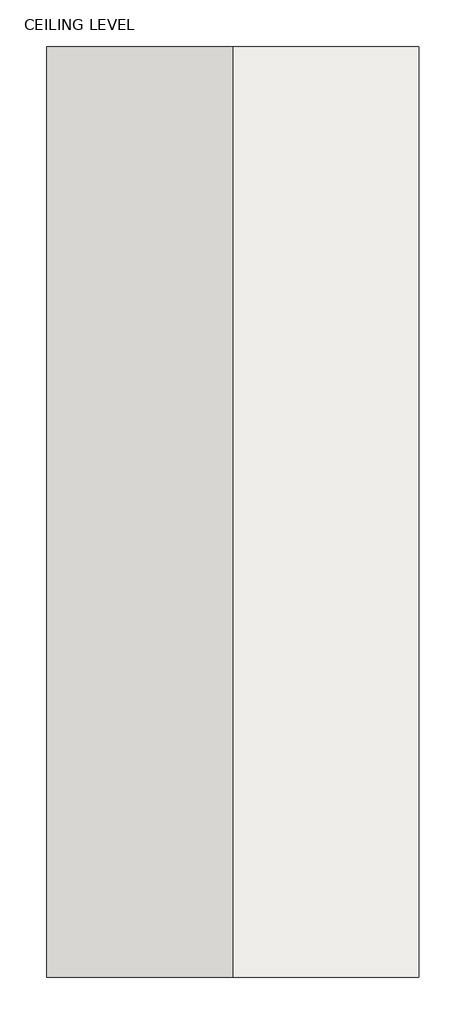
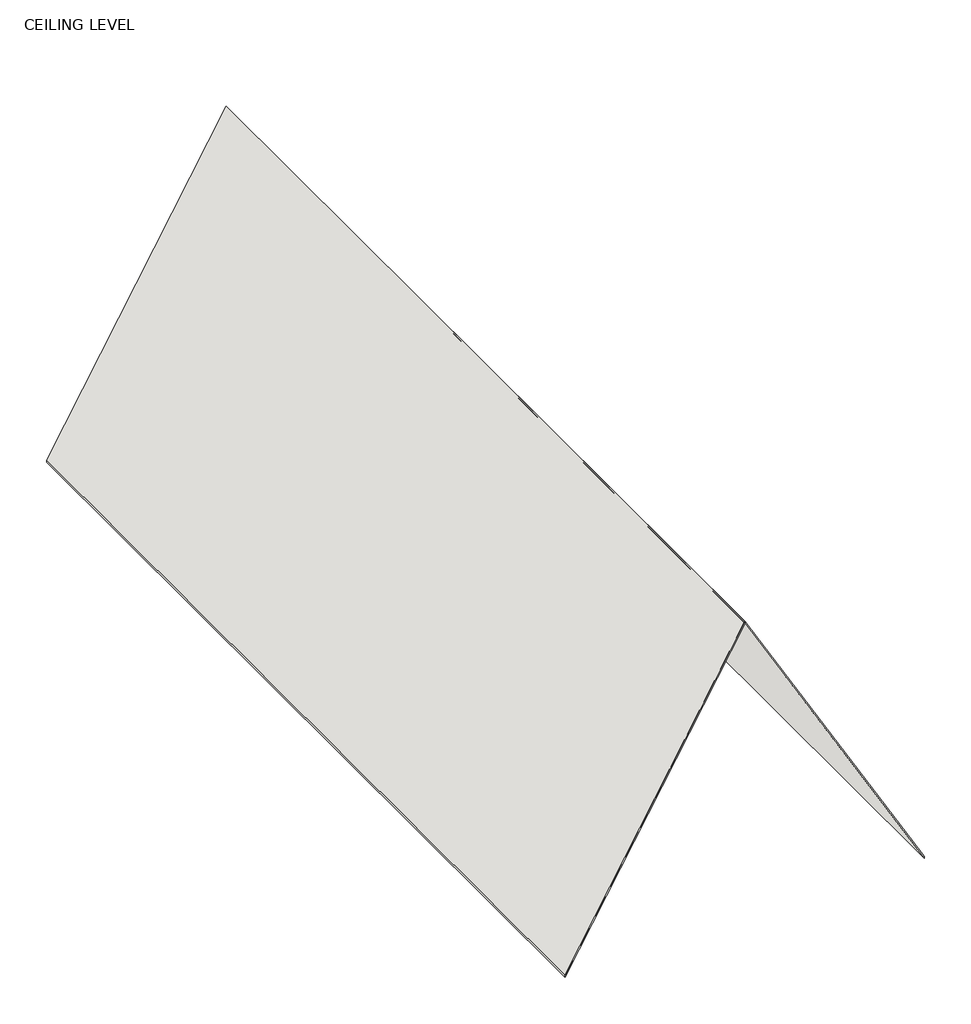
# One storey: 2 roofs.
"""IFC4 building model written with IfcOpenShell, lengths in millimetres."""

from ifc_helpers import new_model, si_unit, frame, origin, place, context, project, spatial, polyline, outline, extrude, element, save

model = new_model("IFC4")

# Units and contexts
model_context = context("Model", 3, world=origin())
ifc_project = project(units=[si_unit("LENGTHUNIT", "METRE", prefix="MILLI")], contexts=[model_context])

# Site, building, storey
site = spatial("IfcSite", under=ifc_project)
building = spatial("IfcBuilding", under=site)
storey = spatial("IfcBuildingStorey", under=building, Name="CEILING LEVEL", Elevation=3000.0)

# Roofs
placement = place(None, origin())
element("IfcRoof", 1, ObjectType="CEILING", at=placement, inside=storey, context=model_context, shape_type="SweptSolid", body=[
    extrude(outline(polyline([(-820.9551685, 184473.2345529), (2643.1464466, 182473.2345529), (2619.1464466, 182473.2345529), (-844.9551685, 184473.2345529), (-820.9551685, 184473.2345529)])), frame((0.0, 37012.9193804, 0.0), z_axis=(0.0, 1.0, 0.0), x_axis=(0.0, 0.0, 1.0)), (0.0, 0.0, 1.0), 10000.0),
])
element("IfcRoof", 2, ObjectType="CEILING", at=placement, inside=storey, context=model_context, shape_type="SweptSolid", body=[
    extrude(outline(polyline([(2643.1464466, 182472.2345529), (-820.9551685, 180472.2345529), (-844.9551685, 180472.2345529), (2619.1464466, 182472.2345529), (2643.1464466, 182472.2345529)])), frame((0.0, 37012.9193804, 0.0), z_axis=(0.0, 1.0, 0.0), x_axis=(0.0, 0.0, 1.0)), (0.0, 0.0, 1.0), 10000.0),
])

save(model, "model.ifc")
